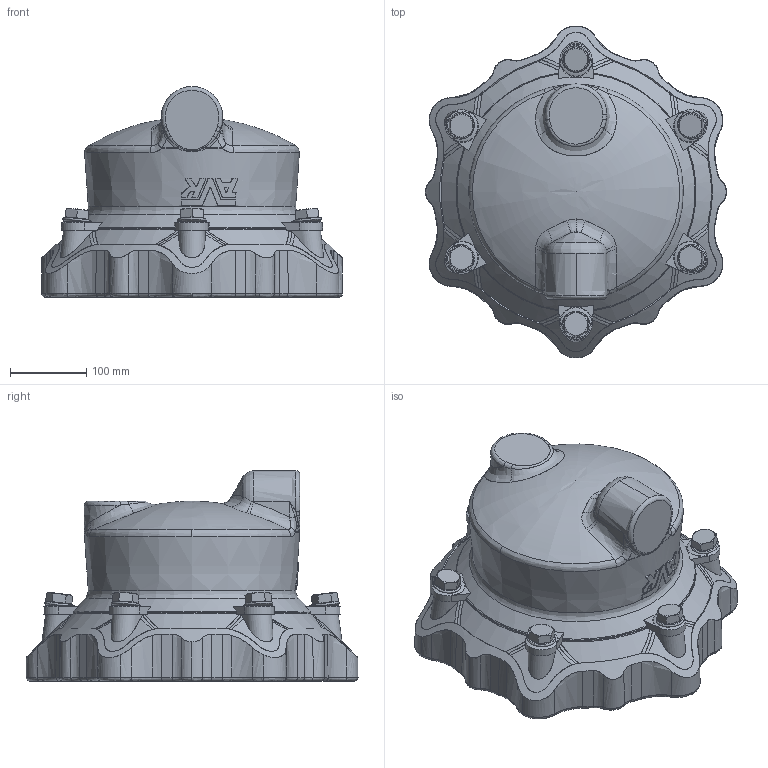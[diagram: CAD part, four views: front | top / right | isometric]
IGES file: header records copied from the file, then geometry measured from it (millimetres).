
Start section: SolidWorks IGES file using analytic representation for surfaces
Global section: file name: \\avksan2\techshare\PBM outline export from Enovia\O_634_00_DN225_224-257mm_AA0_igs.igs; native system: SolidWorks 2012; preprocessor: SolidWorks 2012; author: pbm; date: 160510.124419; units: millimetre
Bounding box: 395.97 x 436.64 x 277.51 mm (x, y, z)
Surface area: 622539.7 mm2 (no closed solid volume)
Topology: 0 solids, 0 shells, 723 faces, 4185 edges, 4148 vertices
Faces by surface type: revolution 362, bspline 361
